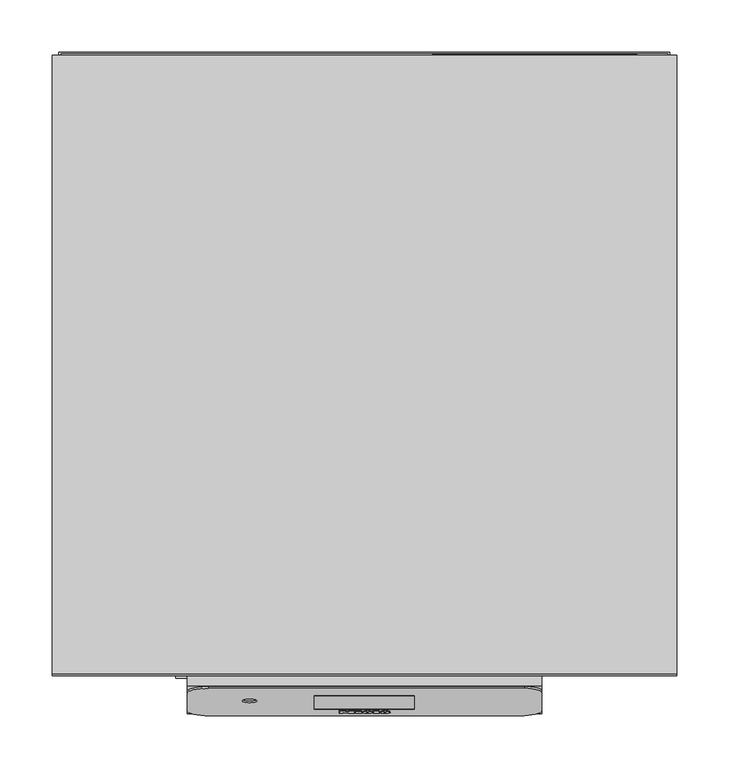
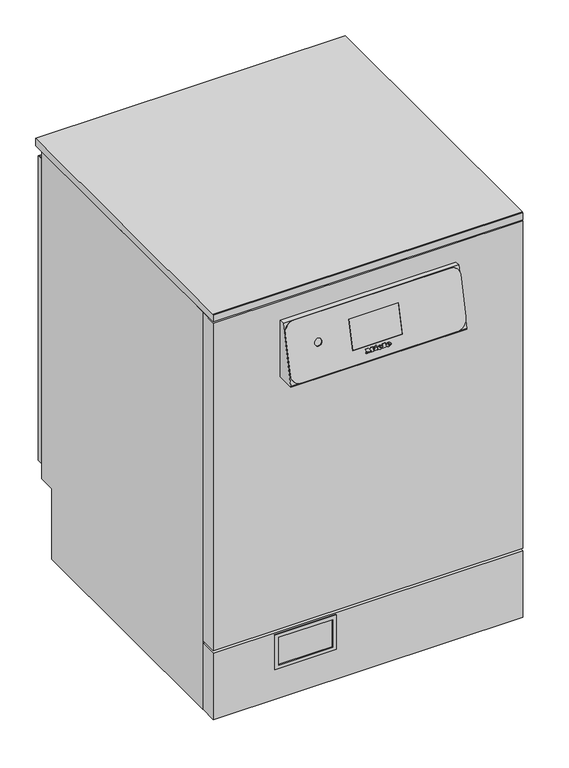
"""IFC4 building model written with IfcOpenShell, lengths in millimetres: proxy geometry, 12065720_NWE_PFD404_SST : 61040410_NWE_12065720_PFD404_SST."""

from ifc_helpers import new_model, si_unit, point, frame, frame_2d, origin, origin_with_axes, place, context, project, spatial, polyline, circle_curve, ellipse_curve, trimmed, segment, composite_curve, outline, extrude, faceted_brep, source, transform, mapped, element, save
from ifc_brep_helpers import plane_surface, cylinder_surface, revolved_surface, extruded_surface, advanced_brep


def specialty_equipment_543192e9(model_context):
    return source(origin(), model_context, "Body", "SolidModel", [
        advanced_brep(
        [(19.2098411, -35.3170778, 679.7116041), (19.2098411, -35.1353173, 680.4988951), (24.5618411, -35.1353173, 680.4988951), (15.2498411, -35.1353173, 680.4988951), (17.4498411, -35.743585, 677.8641985), (24.4258411, -35.3170778, 679.7116041), (22.0098411, -35.3170778, 679.7116041), (20.1058411, -35.5186339, 678.8385685), (19.2098411, -34.9049675, 681.4966501), (19.2098411, -34.7088101, 682.3463008), (20.5778411, -34.7088101, 682.3463008), (20.5778411, -34.9049675, 681.4966501), (19.2098411, -34.3427077, 679.4866531), (20.1058411, -34.5442639, 678.6136175), (22.0098411, -34.3427077, 679.4866531), (24.4258411, -34.3427077, 679.4866531), (17.4498411, -34.7692149, 677.6392474), (15.2498411, -34.1609473, 680.2739441), (24.5618411, -34.1609473, 680.2739441), (19.2098411, -34.1609473, 680.2739441), (19.2098411, -33.9305974, 681.271699), (20.5778411, -33.9305974, 681.271699), (20.5778411, -33.7344401, 682.1213497), (19.2098411, -33.7344401, 682.1213497)],
        [
            (0, 1),
            (1, 2),
            (2, 3, ellipse_curve(frame((19.9058411, -35.1353173, 680.4988951), z_axis=(0.0, -0.9743700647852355, 0.22495105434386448), x_axis=(-1.0, 0.0, 0.0)), 4.656, 3.848)),
            (3, 4, circle_curve(frame((18.3458847, -35.0741307, 680.7639238), z_axis=(0.0, -0.9743700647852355, 0.22495105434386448), x_axis=(0.0, -0.22495105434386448, -0.9743700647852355)), 3.1079688)),
            (4, 5, circle_curve(frame((19.8126347, -34.599034, 682.8217934), z_axis=(0.0, -0.9743700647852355, 0.22495105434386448), x_axis=(0.0, -0.22495105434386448, -0.9743700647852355)), 5.6098607)),
            (5, 6),
            (6, 7, circle_curve(frame((20.4968999, -35.1497142, 680.4365354), z_axis=(0.0, 0.9743700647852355, -0.22495105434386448), x_axis=(0.0, -0.22495105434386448, -0.9743700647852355)), 1.6859795)),
            (7, 0, circle_curve(frame((20.1058411, -35.3170778, 679.7116041), z_axis=(0.0, 0.9743700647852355, -0.22495105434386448), x_axis=(0.0, -0.22495105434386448, -0.9743700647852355)), 0.896)),
            (8, 9),
            (9, 10, circle_curve(frame((19.8938411, -34.7088101, 682.3463008), z_axis=(0.0, 0.9743700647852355, -0.22495105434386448), x_axis=(0.0, -0.22495105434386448, -0.9743700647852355)), 0.684)),
            (10, 11),
            (11, 8),
            (12, 13, circle_curve(frame((20.1058411, -34.3427077, 679.4866531), z_axis=(0.0, -0.9743700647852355, 0.22495105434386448), x_axis=(0.0, -0.22495105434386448, -0.9743700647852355)), 0.896)),
            (13, 14, circle_curve(frame((20.4968999, -34.1753441, 680.2115844), z_axis=(0.0, -0.9743700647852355, 0.22495105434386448), x_axis=(0.0, -0.22495105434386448, -0.9743700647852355)), 1.6859795)),
            (14, 15),
            (15, 16, circle_curve(frame((19.8126347, -33.624664, 682.5968423), z_axis=(0.0, 0.9743700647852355, -0.22495105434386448), x_axis=(0.0, -0.22495105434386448, -0.9743700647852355)), 5.6098607)),
            (16, 17, circle_curve(frame((18.3458847, -34.0997606, 680.5389727), z_axis=(0.0, 0.9743700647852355, -0.22495105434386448), x_axis=(0.0, -0.22495105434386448, -0.9743700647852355)), 3.1079688)),
            (17, 18, ellipse_curve(frame((19.9058411, -34.1609473, 680.2739441), z_axis=(0.0, 0.9743700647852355, -0.22495105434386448), x_axis=(-1.0, 0.0, 0.0)), 4.656, 3.848)),
            (18, 19),
            (19, 12),
            (20, 21),
            (21, 22),
            (22, 23, circle_curve(frame((19.8938411, -33.7344401, 682.1213497), z_axis=(0.0, -0.9743700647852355, 0.22495105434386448), x_axis=(0.0, -0.22495105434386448, -0.9743700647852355)), 0.684)),
            (23, 20),
            (0, 12),
            (19, 1),
            (18, 2),
            (5, 15),
            (14, 6),
            (17, 3),
            (13, 7),
            (16, 4),
            (8, 20),
            (23, 9),
            (22, 10),
            (21, 11),
        ],
        [
            plane_surface(frame((19.2098411, -35.1353173, 680.4988951), z_axis=(0.0, -0.9743700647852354, 0.22495105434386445), x_axis=(0.0, 0.22495105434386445, 0.9743700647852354))),
            plane_surface(frame((19.2098411, -34.1609473, 680.2739441), z_axis=(0.0, 0.9743700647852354, -0.22495105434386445), x_axis=(0.0, -0.22495105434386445, -0.9743700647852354))),
            plane_surface(frame((19.2098411, -35.3170778, 679.7116041), z_axis=(1.0, 0.0, 0.0), x_axis=(0.0, 0.9743700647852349, -0.22495105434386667))),
            plane_surface(frame((19.2098411, -35.1353173, 680.4988951), z_axis=(0.0, -0.22495105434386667, -0.9743700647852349), x_axis=(0.0, 0.9743700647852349, -0.22495105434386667))),
            plane_surface(frame((24.4258411, -35.3170778, 679.7116041), z_axis=(0.0, 0.22495105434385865, 0.9743700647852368), x_axis=(0.0, 0.9743700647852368, -0.22495105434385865))),
            extruded_surface(trimmed(ellipse_curve(frame((19.9058411, -33.1865772, 680.048993), z_axis=(0.0, -0.9743700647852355, 0.22495105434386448), x_axis=(-1.0, 0.0, 0.0)), 4.656, 3.848), [point((24.5618411, -33.1865772, 680.048993))], [point((15.2498411, -33.1865772, 680.048993))], True, "CARTESIAN"), (0.0, -0.9743700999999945, 0.2249510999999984), 1.0000000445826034),
            revolved_surface(polyline([(20.4968999, -34.55460696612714, 678.5688164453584), (20.4968999, -35.52897707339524, 678.7937675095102)]), (20.4968999, -34.1753441, 680.2115844), (0.0, 0.9743700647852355, -0.22495105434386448)),
            revolved_surface(polyline([(20.1058411, -34.544263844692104, 678.6136175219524), (20.1058411, -35.51863393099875, 678.8385685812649)]), (20.1058411, -34.3427077, 679.4866531), (0.0, 0.9743700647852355, -0.22495105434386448)),
            cylinder_surface(frame((18.3458847, -34.0997606, 680.5389727), z_axis=(0.0, -0.9743700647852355, 0.22495105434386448), x_axis=(0.0, -0.22495105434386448, -0.9743700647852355)), 3.1079688),
            cylinder_surface(frame((19.8126347, -33.624664, 682.5968423), z_axis=(0.0, -0.9743700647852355, 0.22495105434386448), x_axis=(0.0, -0.22495105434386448, -0.9743700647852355)), 5.6098607),
            plane_surface(frame((19.2098411, -34.9049675, 681.4966501), z_axis=(1.0, 0.0, 0.0), x_axis=(0.0, 0.9743700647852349, -0.22495105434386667))),
            revolved_surface(polyline([(19.8938411, -33.8883066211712, 681.4548805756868), (19.8938411, -34.8626766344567, 681.6798316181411)]), (19.8938411, -33.7344401, 682.1213497), (0.0, 0.9743700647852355, -0.22495105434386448)),
            plane_surface(frame((20.5778411, -34.7088101, 682.3463008), z_axis=(-1.0, 0.0, 0.0), x_axis=(0.0, 0.9743700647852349, -0.22495105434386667))),
            plane_surface(frame((20.5778411, -34.9049675, 681.4966501), z_axis=(0.0, 0.22495105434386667, 0.9743700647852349), x_axis=(0.0, 0.9743700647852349, -0.22495105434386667))),
        ],
        [
            (0, [[1, 2, 3, 4, 5, 6, 7, 8], [9, 10, 11, 12]]),
            (1, [[13, 14, 15, 16, 17, 18, 19, 20], [21, 22, 23, 24]]),
            (2, [[-1, 25, -20, 26]]),
            (3, [[-2, -26, -19, 27]]),
            (4, [[-6, 28, -15, 29]]),
            (5, [[-3, -27, -18, 30]]),
            (6, [[-7, -29, -14, 31]]),
            (7, [[-8, -31, -13, -25]]),
            (8, [[-4, -30, -17, 32]]),
            (9, [[-5, -32, -16, -28]]),
            (10, [[-9, 33, -24, 34]]),
            (11, [[-10, -34, -23, 35]]),
            (12, [[-11, -35, -22, 36]]),
            (13, [[-12, -36, -21, -33]]),
        ],
    ),
        advanced_brep(
        [(2.5138411, -35.3170778, 679.7116041), (2.5138411, -35.1353173, 680.4988951), (7.8658411, -35.1353173, 680.4988951), (-1.4461589, -35.1353173, 680.4988951), (0.7538411, -35.743585, 677.8641985), (7.7298411, -35.3170778, 679.7116041), (5.3138411, -35.3170778, 679.7116041), (3.4098411, -35.5186339, 678.8385685), (2.5138411, -34.9049675, 681.4966501), (2.5138411, -34.7088101, 682.3463008), (3.8818411, -34.7088101, 682.3463008), (3.8818411, -34.9049675, 681.4966501), (2.5138411, -34.3427077, 679.4866531), (3.4098411, -34.5442639, 678.6136175), (5.3138411, -34.3427077, 679.4866531), (7.7298411, -34.3427077, 679.4866531), (0.7538411, -34.7692149, 677.6392474), (-1.4461589, -34.1609473, 680.2739441), (7.8658411, -34.1609473, 680.2739441), (2.5138411, -34.1609473, 680.2739441), (2.5138411, -33.9305974, 681.271699), (3.8818411, -33.9305974, 681.271699), (3.8818411, -33.7344401, 682.1213497), (2.5138411, -33.7344401, 682.1213497)],
        [
            (0, 1),
            (1, 2),
            (2, 3, ellipse_curve(frame((3.2098411, -35.1353173, 680.4988951), z_axis=(0.0, -0.9743700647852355, 0.22495105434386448), x_axis=(-1.0, 0.0, 0.0)), 4.656, 3.848)),
            (3, 4, circle_curve(frame((1.6498847, -35.0741307, 680.7639238), z_axis=(0.0, -0.9743700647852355, 0.22495105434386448), x_axis=(0.0, -0.22495105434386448, -0.9743700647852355)), 3.1079688)),
            (4, 5, circle_curve(frame((3.1166347, -34.599034, 682.8217934), z_axis=(0.0, -0.9743700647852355, 0.22495105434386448), x_axis=(0.0, -0.22495105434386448, -0.9743700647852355)), 5.6098607)),
            (5, 6),
            (6, 7, circle_curve(frame((3.8008999, -35.1497142, 680.4365354), z_axis=(0.0, 0.9743700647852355, -0.22495105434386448), x_axis=(0.0, -0.22495105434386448, -0.9743700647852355)), 1.6859795)),
            (7, 0, circle_curve(frame((3.4098411, -35.3170778, 679.7116041), z_axis=(0.0, 0.9743700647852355, -0.22495105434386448), x_axis=(0.0, -0.22495105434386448, -0.9743700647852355)), 0.896)),
            (8, 9),
            (9, 10, circle_curve(frame((3.1978411, -34.7088101, 682.3463008), z_axis=(0.0, 0.9743700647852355, -0.22495105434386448), x_axis=(0.0, -0.22495105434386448, -0.9743700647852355)), 0.684)),
            (10, 11),
            (11, 8),
            (12, 13, circle_curve(frame((3.4098411, -34.3427077, 679.4866531), z_axis=(0.0, -0.9743700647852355, 0.22495105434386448), x_axis=(0.0, -0.22495105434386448, -0.9743700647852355)), 0.896)),
            (13, 14, circle_curve(frame((3.8008999, -34.1753441, 680.2115844), z_axis=(0.0, -0.9743700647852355, 0.22495105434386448), x_axis=(0.0, -0.22495105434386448, -0.9743700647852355)), 1.6859795)),
            (14, 15),
            (15, 16, circle_curve(frame((3.1166347, -33.624664, 682.5968423), z_axis=(0.0, 0.9743700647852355, -0.22495105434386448), x_axis=(0.0, -0.22495105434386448, -0.9743700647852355)), 5.6098607)),
            (16, 17, circle_curve(frame((1.6498847, -34.0997606, 680.5389727), z_axis=(0.0, 0.9743700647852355, -0.22495105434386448), x_axis=(0.0, -0.22495105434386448, -0.9743700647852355)), 3.1079688)),
            (17, 18, ellipse_curve(frame((3.2098411, -34.1609473, 680.2739441), z_axis=(0.0, 0.9743700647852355, -0.22495105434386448), x_axis=(-1.0, 0.0, 0.0)), 4.656, 3.848)),
            (18, 19),
            (19, 12),
            (20, 21),
            (21, 22),
            (22, 23, circle_curve(frame((3.1978411, -33.7344401, 682.1213497), z_axis=(0.0, -0.9743700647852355, 0.22495105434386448), x_axis=(0.0, -0.22495105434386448, -0.9743700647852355)), 0.684)),
            (23, 20),
            (0, 12),
            (19, 1),
            (18, 2),
            (5, 15),
            (14, 6),
            (17, 3),
            (13, 7),
            (16, 4),
            (8, 20),
            (23, 9),
            (22, 10),
            (21, 11),
        ],
        [
            plane_surface(frame((2.5138411, -35.1353173, 680.4988951), z_axis=(0.0, -0.9743700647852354, 0.22495105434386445), x_axis=(0.0, 0.22495105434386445, 0.9743700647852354))),
            plane_surface(frame((2.5138411, -34.1609473, 680.2739441), z_axis=(0.0, 0.9743700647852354, -0.22495105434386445), x_axis=(0.0, -0.22495105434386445, -0.9743700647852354))),
            plane_surface(frame((2.5138411, -35.3170778, 679.7116041), z_axis=(1.0000000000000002, 0.0, 0.0), x_axis=(0.0, 0.9743700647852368, -0.22495105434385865))),
            plane_surface(frame((2.5138411, -35.1353173, 680.4988951), z_axis=(0.0, -0.22495105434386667, -0.9743700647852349), x_axis=(0.0, 0.9743700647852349, -0.22495105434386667))),
            plane_surface(frame((7.7298411, -35.3170778, 679.7116041), z_axis=(0.0, 0.22495105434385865, 0.9743700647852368), x_axis=(0.0, 0.9743700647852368, -0.22495105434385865))),
            extruded_surface(trimmed(ellipse_curve(frame((3.2098411, -33.1865772, 680.048993), z_axis=(0.0, -0.9743700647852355, 0.22495105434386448), x_axis=(-1.0, 0.0, 0.0)), 4.656, 3.848), [point((7.8658411, -33.1865772, 680.048993))], [point((-1.4461589, -33.1865772, 680.048993))], True, "CARTESIAN"), (0.0, -0.9743700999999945, 0.2249510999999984), 1.0000000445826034),
            revolved_surface(polyline([(3.8008999, -34.55460696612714, 678.5688164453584), (3.8008999, -35.52897707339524, 678.7937675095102)]), (3.8008999, -34.1753441, 680.2115844), (0.0, 0.9743700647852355, -0.22495105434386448)),
            revolved_surface(polyline([(3.4098411, -34.544263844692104, 678.6136175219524), (3.4098411, -35.51863393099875, 678.8385685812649)]), (3.4098411, -34.3427077, 679.4866531), (0.0, 0.9743700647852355, -0.22495105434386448)),
            cylinder_surface(frame((1.6498847, -34.0997606, 680.5389727), z_axis=(0.0, -0.9743700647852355, 0.22495105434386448), x_axis=(0.0, -0.22495105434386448, -0.9743700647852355)), 3.1079688),
            cylinder_surface(frame((3.1166347, -33.624664, 682.5968423), z_axis=(0.0, -0.9743700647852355, 0.22495105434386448), x_axis=(0.0, -0.22495105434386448, -0.9743700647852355)), 5.6098607),
            plane_surface(frame((2.5138411, -34.9049675, 681.4966501), z_axis=(1.0, 0.0, 0.0), x_axis=(0.0, 0.9743700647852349, -0.22495105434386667))),
            revolved_surface(polyline([(3.1978411, -33.8883066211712, 681.4548805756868), (3.1978411, -34.8626766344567, 681.6798316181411)]), (3.1978411, -33.7344401, 682.1213497), (0.0, 0.9743700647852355, -0.22495105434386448)),
            plane_surface(frame((3.8818411, -34.7088101, 682.3463008), z_axis=(-1.0, 0.0, 0.0), x_axis=(0.0, 0.9743700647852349, -0.22495105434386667))),
            plane_surface(frame((3.8818411, -34.9049675, 681.4966501), z_axis=(0.0, 0.22495105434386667, 0.9743700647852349), x_axis=(0.0, 0.9743700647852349, -0.22495105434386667))),
        ],
        [
            (0, [[1, 2, 3, 4, 5, 6, 7, 8], [9, 10, 11, 12]]),
            (1, [[13, 14, 15, 16, 17, 18, 19, 20], [21, 22, 23, 24]]),
            (2, [[-1, 25, -20, 26]]),
            (3, [[-2, -26, -19, 27]]),
            (4, [[-6, 28, -15, 29]]),
            (5, [[-3, -27, -18, 30]]),
            (6, [[-7, -29, -14, 31]]),
            (7, [[-8, -31, -13, -25]]),
            (8, [[-4, -30, -17, 32]]),
            (9, [[-5, -32, -16, -28]]),
            (10, [[-9, 33, -24, 34]]),
            (11, [[-10, -34, -23, 35]]),
            (12, [[-11, -35, -22, 36]]),
            (13, [[-12, -36, -21, -33]]),
        ],
    ),
        extrude(outline(polyline([(0.0, 0.0), (-0.0109087, -2.9993294), (-1.4390415, -2.9920868), (-1.4315307, 0.0), (0.0, 0.0)])), frame((-6.2301589, -33.0757834, 684.9743053), z_axis=(0.0, -0.9743700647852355, 0.2249510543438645), x_axis=(-0.42472021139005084, 0.20365373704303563, 0.8821212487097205)), (0.0, 0.0, 1.0), 1.0),
        extrude(outline(polyline([(-0.4933908, 2.4141097), (-2.7800844, -2.4601583), (-7.0459742, -0.4588767), (-7.4401146, -1.2990179), (-8.6568709, -0.728194), (-5.9760369, 4.9862153), (-4.7592806, 4.4153913), (-5.1636142, 3.5535222), (-2.1941493, 2.16044), (-1.7898157, 3.022309), (-0.4933908, 2.4141097)])), frame((-6.2301589, -33.0757834, 684.9743053), z_axis=(0.0, -0.9743700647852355, 0.2249510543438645), x_axis=(-0.42472021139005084, 0.20365373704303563, 0.8821212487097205)), (0.0, 0.0, 1.0), 1.0),
        extrude(outline(polyline([(0.0, 0.0), (0.0, -1.3039999), (-5.504, -1.3039999), (-5.504, 5.352), (-6.488, 5.352), (-6.488, 6.696), (0.0, 6.696), (0.0, 5.352), (-0.96, 5.352), (-0.96, 0.0), (0.0, 0.0)])), frame((8.3138411, -33.2629427, 684.1636294), z_axis=(0.0, -0.9743700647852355, 0.22495105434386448), x_axis=(-1.0, 0.0, 0.0)), (0.0, 0.0, 1.0), 1.0),
        extrude(outline(polyline([(0.0, 0.0), (0.0, -1.3039999), (-5.576, -1.3039999), (-7.92, 1.6960001), (-10.256, -1.3039999), (-15.128, -1.3039999), (-15.128, 0.0), (-14.112, 0.0), (-14.112, 5.352), (-15.128, 5.352), (-15.128, 6.696), (-8.744, 6.696), (-8.744, 5.352), (-9.728, 5.352), (-9.728, 1.8807777), (-6.136, 6.696), (-2.56, 1.9488752), (-2.56, 5.352), (-3.52, 5.352), (-3.52, 6.696), (0.0, 6.696), (0.0, 5.352), (-0.968, 5.352), (-0.968, 0.0), (0.0, 0.0)])), frame((-24.1501589, -33.2629427, 684.1636294), z_axis=(0.0, -0.9743700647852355, 0.22495105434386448), x_axis=(-1.0, 0.0, 0.0)), (0.0, 0.0, 1.0), 1.0),
        extrude(outline(polyline([(1.7745866, 832.3), (594.2, 832.3), (594.2, 817.0), (0.2, 817.0), (0.2, 830.7254134), (1.7745866, 832.3)])), frame((-299.0, 0.0, 0.0), z_axis=(1.0, 0.0, 0.0), x_axis=(0.0, 1.0, 0.0)), (0.0, 0.0, 1.0), 598.0),
        extrude(outline(polyline([(-0.1038681, 775.5857792), (-0.1038681, 660.0), (-36.1981904, 660.0), (-36.1981904, 662.5588517), (-10.1038681, 775.5857792), (-0.1038681, 775.5857792)])), frame((-169.8831565, 0.0, 0.0), z_axis=(1.0, 0.0, 0.0), x_axis=(0.0, 1.0, 0.0)), (0.0, 0.0, 1.0), 339.766313),
        extrude(outline(polyline([(137.0, -180.8556958), (66.1019991, -180.8556958), (66.1019991, -62.1493684), (137.0, -62.1493684), (137.0, -180.8556958)]), holes=[polyline([(129.5988213, -69.1491757), (73.0575068, -69.1491757), (73.0575068, -173.1990884), (129.5988213, -173.1990884), (129.5988213, -69.1491757)])]), frame((0.0, -2.0, 0.0), z_axis=(0.0, 1.0, 0.0), x_axis=(0.0, 0.0, 1.0)), (0.0, 0.0, 1.0), 2.0),
        extrude(outline(polyline([(299.0, 34.0), (299.0, 0.0), (-299.0, 0.0), (-299.0, 34.0), (299.0, 34.0)])), frame((0.0, 0.0, 4.5), z_axis=(0.0, 0.0, 1.0), x_axis=(1.0, 0.0, 0.0)), (0.0, 0.0, 1.0), 135.5),
        extrude(outline(polyline([(299.0, 34.0), (299.0, 0.0), (-299.0, 0.0), (-299.0, 34.0), (299.0, 34.0)])), frame((0.0, 0.0, 145.0), z_axis=(0.0, 0.0, 1.0), x_axis=(1.0, 0.0, 0.0)), (0.0, 0.0, 1.0), 670.0),
        advanced_brep(
        [(153.3281651, -12.0526082, 776.0356813), (-148.8831565, -12.0526082, 776.0356813), (-169.8831565, -16.7765804, 755.57391), (-169.8831565, -33.4229584, 683.4705252), (-148.8831565, -38.1469305, 663.0087538), (148.8831565, -38.1469305, 663.0087538), (169.8831565, -33.4229584, 683.4705252), (169.8831565, -15.776671, 759.9049933), (-102.8831565, -24.0088923, 724.2473253), (-116.8831565, -24.0088923, 724.2473253), (48.0, -18.9868916, 746.0), (48.0, -31.9155103, 690.0), (-48.0, -31.9155103, 690.0), (-48.0, -18.9868916, 746.0), (153.3281651, -10.1038681, 775.5857792), (169.8831565, -13.8279308, 759.4550912), (169.8831565, -31.4742182, 683.0206231), (148.8831565, -36.1981904, 662.5588517), (-148.8831565, -36.1981904, 662.5588517), (-169.8831565, -31.4742182, 683.0206231), (-169.8831565, -14.8278402, 755.1240079), (-148.8831565, -10.1038681, 775.5857792), (48.0, -29.8629021, 690.0), (48.0, -16.9342834, 746.0), (-48.0, -16.9342834, 746.0), (-48.0, -29.8629021, 690.0), (-116.8831565, -22.4281396, 723.8823798), (-102.8831565, -22.4281396, 723.8823798)],
        [
            (0, 1),
            (1, 2, circle_curve(frame((-148.8831565, -16.7765804, 755.57391), z_axis=(0.0, -0.9743700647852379, 0.22495105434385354), x_axis=(1.0, 0.0, 0.0)), 21.0)),
            (2, 3),
            (3, 4, circle_curve(frame((-148.8831565, -33.4229584, 683.4705252), z_axis=(0.0, -0.9743700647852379, 0.22495105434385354), x_axis=(1.0, 0.0, 0.0)), 21.0)),
            (4, 5),
            (5, 6, circle_curve(frame((148.8831565, -33.4229584, 683.4705252), z_axis=(0.0, -0.9743700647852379, 0.22495105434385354), x_axis=(1.0, 0.0, 0.0)), 21.0)),
            (6, 7),
            (7, 0, circle_curve(frame((153.3281651, -15.776671, 759.9049933), z_axis=(0.0, -0.9743700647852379, 0.22495105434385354), x_axis=(1.0, 0.0, 0.0)), 16.5549913)),
            (8, 9, circle_curve(frame((-109.8831565, -24.0088923, 724.2473253), z_axis=(0.0, 0.9743700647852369, -0.22495105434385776), x_axis=(1.0, 0.0, 0.0)), 7.0)),
            (9, 8, circle_curve(frame((-109.8831565, -24.0088923, 724.2473253), z_axis=(0.0, 0.9743700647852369, -0.22495105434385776), x_axis=(1.0, 0.0, 0.0)), 7.0)),
            (10, 11),
            (11, 12),
            (12, 13),
            (13, 10),
            (14, 15, circle_curve(frame((153.3281651, -13.8279308, 759.4550912), z_axis=(0.0, 0.9743700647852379, -0.22495105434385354), x_axis=(1.0, 0.0, 0.0)), 16.5549913)),
            (15, 16),
            (16, 17, circle_curve(frame((148.8831565, -31.4742182, 683.0206231), z_axis=(0.0, 0.9743700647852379, -0.22495105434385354), x_axis=(1.0, 0.0, 0.0)), 21.0)),
            (17, 18),
            (18, 19, circle_curve(frame((-148.8831565, -31.4742182, 683.0206231), z_axis=(0.0, 0.9743700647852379, -0.22495105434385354), x_axis=(1.0, 0.0, 0.0)), 21.0)),
            (19, 20),
            (20, 21, circle_curve(frame((-148.8831565, -14.8278402, 755.1240079), z_axis=(0.0, 0.9743700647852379, -0.22495105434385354), x_axis=(1.0, 0.0, 0.0)), 21.0)),
            (21, 14),
            (22, 23),
            (23, 24),
            (24, 25),
            (25, 22),
            (0, 14),
            (21, 1),
            (20, 2),
            (19, 3),
            (18, 4),
            (17, 5),
            (16, 6),
            (15, 7),
            (26, 27, circle_curve(frame((-109.8831565, -22.4281396, 723.8823798), z_axis=(0.0, -0.9743700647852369, 0.22495105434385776), x_axis=(1.0, 0.0, 0.0)), 7.0)),
            (27, 26, circle_curve(frame((-109.8831565, -22.4281396, 723.8823798), z_axis=(0.0, -0.9743700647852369, 0.22495105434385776), x_axis=(1.0, 0.0, 0.0)), 7.0)),
            (26, 9),
            (8, 27),
            (12, 25),
            (24, 13),
            (10, 23),
            (22, 11),
        ],
        [
            plane_surface(frame((-166.8819453, -12.0526082, 776.0356813), z_axis=(0.0, -0.9743700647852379, 0.22495105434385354), x_axis=(-1.0, 0.0, 0.0))),
            plane_surface(frame((-166.8819453, -10.1038681, 775.5857792), z_axis=(0.0, 0.9743700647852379, -0.22495105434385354), x_axis=(1.0, 0.0, 0.0))),
            plane_surface(frame((153.3281651, -12.0526082, 776.0356813), z_axis=(0.0, 0.22495105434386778, 0.9743700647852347), x_axis=(0.0, 0.9743700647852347, -0.22495105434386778))),
            cylinder_surface(frame((-148.8831565, -14.8278402, 755.1240079), z_axis=(0.0, -0.9743700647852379, 0.22495105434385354), x_axis=(1.0, 0.0, 0.0)), 21.0),
            plane_surface(frame((-169.8831565, -16.7765804, 755.57391), z_axis=(-1.0, 0.0, 0.0), x_axis=(0.0, 0.9743700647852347, -0.22495105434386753))),
            cylinder_surface(frame((-148.8831565, -31.4742182, 683.0206231), z_axis=(0.0, -0.9743700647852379, 0.22495105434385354), x_axis=(1.0, 0.0, 0.0)), 21.0),
            plane_surface(frame((-148.8831565, -38.1469305, 663.0087538), z_axis=(0.0, -0.22495105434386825, -0.9743700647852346), x_axis=(0.0, 0.9743700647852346, -0.22495105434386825))),
            cylinder_surface(frame((148.8831565, -31.4742182, 683.0206231), z_axis=(0.0, -0.9743700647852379, 0.22495105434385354), x_axis=(1.0, 0.0, 0.0)), 21.0),
            plane_surface(frame((169.8831565, -33.4229584, 683.4705252), z_axis=(1.0000000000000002, 0.0, 0.0), x_axis=(0.0, 0.9743700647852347, -0.22495105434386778))),
            cylinder_surface(frame((153.3281651, -13.8279308, 759.4550912), z_axis=(0.0, -0.9743700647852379, 0.22495105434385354), x_axis=(1.0, 0.0, 0.0)), 16.5549913),
            plane_surface(frame((-102.8831565, -22.4281396, 723.8823798), z_axis=(0.0, -0.9743700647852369, 0.2249510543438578), x_axis=(0.0, -0.2249510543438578, -0.9743700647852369))),
            revolved_surface(polyline([(-102.8831565, -24.008892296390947, 724.2473253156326), (-102.8831565, -22.4281396, 723.8823798)]), (-109.8831565, -22.4281396, 723.8823798), (0.0, -0.9743700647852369, 0.22495105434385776)),
            plane_surface(frame((-48.0, -31.9155103, 690.0), z_axis=(1.0, 0.0, 0.0), x_axis=(0.0, -1.0, 0.0))),
            plane_surface(frame((48.0, -31.9155103, 690.0), z_axis=(-1.0, 0.0, 0.0), x_axis=(0.0, 1.0, 0.0))),
            plane_surface(frame((48.0, -31.9155103, 690.0), z_axis=(0.0, 0.0, 1.0), x_axis=(-1.0, 0.0, 0.0))),
            plane_surface(frame((48.0, -16.9342834, 746.0), z_axis=(0.0, 0.0, -1.0), x_axis=(-1.0, 0.0, 0.0))),
        ],
        [
            (0, [[1, 2, 3, 4, 5, 6, 7, 8], [9, 10], [11, 12, 13, 14]]),
            (1, [[15, 16, 17, 18, 19, 20, 21, 22], [23, 24, 25, 26]]),
            (2, [[-1, 27, -22, 28]]),
            (3, [[-2, -28, -21, 29]]),
            (4, [[-3, -29, -20, 30]]),
            (5, [[-4, -30, -19, 31]]),
            (6, [[-5, -31, -18, 32]]),
            (7, [[-6, -32, -17, 33]]),
            (8, [[-7, -33, -16, 34]]),
            (9, [[-8, -34, -15, -27]]),
            (10, [[35, 36]]),
            (11, [[-35, 37, -9, 38]]),
            (11, [[-36, -38, -10, -37]]),
            (12, [[39, -25, 40, -13]]),
            (13, [[41, -23, 42, -11]]),
            (14, [[-42, -26, -39, -12]]),
            (15, [[-41, -14, -40, -24]]),
        ],
    ),
        extrude(outline(polyline([(-29.8629021, 690.0), (-31.9155103, 690.0), (-18.9868916, 746.0), (-16.9342834, 746.0), (-29.8629021, 690.0)])), frame((-48.0, 0.0, 0.0), z_axis=(1.0, 0.0, 0.0), x_axis=(0.0, 1.0, 0.0)), (0.0, 0.0, 1.0), 96.0),
        extrude(outline(polyline([(35.0, 817.0), (575.0, 817.0), (575.0, 148.0), (541.0, 148.0), (541.0, 4.2000122), (35.0, 4.2000122), (35.0, 817.0)])), frame((-299.0, 0.0, 0.0), z_axis=(1.0, 0.0, 0.0), x_axis=(0.0, 1.0, 0.0)), (0.0, 0.0, 1.0), 598.0),
        extrude(outline(polyline([(-172.0947306, 541.0), (-252.9150967, 541.0), (-252.9150967, 546.8796322), (-172.0947306, 546.8796322), (-172.0947306, 541.0)])), frame((0.0, 0.0, 83.2113443), z_axis=(0.0, 0.0, 1.0), x_axis=(1.0, 0.0, 0.0)), (0.0, 0.0, 1.0), 9.5402229),
        extrude(outline(polyline([(-172.0947306, 541.0), (-252.9150967, 541.0), (-252.9150967, 546.8796322), (-172.0947306, 546.8796322), (-172.0947306, 541.0)])), frame((0.0, 0.0, 49.1113767), z_axis=(0.0, 0.0, 1.0), x_axis=(1.0, 0.0, 0.0)), (0.0, 0.0, 1.0), 11.5700235),
        extrude(outline(polyline([(-172.0947306, 541.0), (-252.9150967, 541.0), (-252.9150967, 546.8796322), (-172.0947306, 546.8796322), (-172.0947306, 541.0)])), frame((0.0, 0.0, 67.2113431), z_axis=(0.0, 0.0, 1.0), x_axis=(1.0, 0.0, 0.0)), (0.0, 0.0, 1.0), 9.5826234),
        faceted_brep([(292.4999939, 597.3069992, 792.0057337), (292.4999939, 575.0, 792.0057337), (292.4999939, 575.0, 170.291519), (292.4999939, 597.3069992, 170.291519), (-292.5000061, 597.3069992, 792.0057337), (-292.5000061, 597.3069992, 170.291519), (-200.000102, 597.3069992, 319.6113699), (-200.000102, 597.3069992, 244.365213), (-125.000102, 597.3069992, 244.365213), (-125.000102, 597.3069992, 319.6113699), (-200.000102, 596.3069992, 244.365213), (-200.000102, 596.3069992, 319.6113699), (-125.000102, 596.3069992, 244.365213), (-125.000102, 596.3069992, 319.6113699), (-292.5000061, 575.0, 792.0057337), (-291.0000061, 575.0, 792.0057337), (-291.0000061, 596.3069992, 792.0057337), (290.9999949, 596.3069992, 792.0057337), (290.9999949, 575.0, 792.0057337), (290.9999949, 575.0, 170.291519), (290.9999949, 596.3069992, 170.291519), (-291.0000061, 596.3069992, 170.291519), (-291.0000061, 575.0, 170.291519), (-292.5000061, 575.0, 170.291519)], [[[0, 1, 2, 3]], [[4, 0, 3, 5], [6, 7, 8, 9]], [[10, 7, 6, 11]], [[7, 10, 12, 8]], [[8, 12, 13, 9]], [[11, 6, 9, 13]], [[0, 4, 14, 15, 16, 17, 18, 1]], [[3, 2, 19, 20, 21, 22, 23, 5]], [[14, 4, 5, 23]], [[15, 14, 23, 22]], [[16, 15, 22, 21]], [[17, 16, 21, 20], [10, 11, 13, 12]], [[18, 17, 20, 19]], [[1, 18, 19, 2]]]),
        extrude(outline(polyline([(48.0999756, 96.1730873), (58.1456066, 98.9125818), (58.1456066, 97.6176372), (51.5433511, 96.028387), (49.5052848, 95.5378777), (51.3079066, 95.0130327), (58.1456066, 93.0215648), (58.1456066, 91.1551768), (53.1890099, 89.7081743), (49.5052848, 88.6315064), (51.4844899, 88.1557123), (58.1456066, 86.5517468), (58.1456066, 85.2568022), (48.0999756, 87.9987493), (48.0999756, 89.3402923), (55.850023, 91.7486931), (56.931596, 92.084692), (55.6292938, 92.4623842), (48.0999756, 94.6574134), (48.0999756, 96.1730873)])), frame((0.0, 571.0, 0.0), z_axis=(0.0, 1.0, 0.0), x_axis=(0.0, 0.0, 1.0)), (0.0, 0.0, 1.0), 1.0),
        extrude(outline(polyline([(48.0999756, 82.2033816), (58.1456066, 84.9428762), (58.1456066, 83.6479316), (51.5433511, 82.0586814), (49.5052848, 81.568172), (51.3079066, 81.0433271), (58.1456066, 79.0518592), (58.1456066, 77.1854712), (53.1890099, 75.7384687), (49.5052848, 74.6618007), (51.4844899, 74.1860067), (58.1456066, 72.5820412), (58.1456066, 71.2870966), (48.0999756, 74.0290437), (48.0999756, 75.3705867), (55.850023, 77.7789875), (56.931596, 78.1149864), (55.6292938, 78.4926786), (48.0999756, 80.6877078), (48.0999756, 82.2033816)])), frame((0.0, 571.0, 0.0), z_axis=(0.0, 1.0, 0.0), x_axis=(0.0, 0.0, 1.0)), (0.0, 0.0, 1.0), 1.0),
        extrude(outline(polyline([(56.599963, 201.5578418), (66.645594, 204.2973364), (66.645594, 203.0023917), (60.0433385, 201.4131415), (58.0052722, 200.9226322), (59.807894, 200.3977872), (66.645594, 198.4063193), (66.645594, 196.5399313), (61.6889973, 195.0929288), (58.0052722, 194.0162609), (59.9844773, 193.5404668), (66.645594, 191.9365013), (66.645594, 190.6415567), (56.599963, 193.3835038), (56.599963, 194.7250468), (64.3500104, 197.1334476), (65.4315834, 197.4694465), (64.1292812, 197.8471387), (56.599963, 200.0421679), (56.599963, 201.5578418)])), frame((0.0, 571.0, 0.0), z_axis=(0.0, 1.0, 0.0), x_axis=(0.0, 0.0, 1.0)), (0.0, 0.0, 1.0), 1.0),
        extrude(outline(polyline([(56.599963, 212.6163745), (66.645594, 212.6163745), (66.645594, 211.3606707), (61.728238, 211.3606707), (66.645594, 206.2103227), (66.645594, 204.4542993), (62.5155055, 208.7781391), (56.599963, 204.2973364), (56.599963, 205.8326305), (61.6669243, 209.6684135), (60.0531487, 211.3606707), (56.599963, 211.3606707), (56.599963, 212.6163745)])), frame((0.0, 571.0, 0.0), z_axis=(0.0, 1.0, 0.0), x_axis=(0.0, 0.0, 1.0)), (0.0, 0.0, 1.0), 1.0),
        extrude(outline(composite_curve([segment(trimmed(circle_curve(frame_2d((61.599963, 202.0998546)), 8.0), [point((61.599963, 194.0998546))], [point((61.599963, 210.0998546))], False, "CARTESIAN"), True, "CONTINUOUS"), segment(trimmed(circle_curve(frame_2d((61.599963, 202.0998546)), 8.0), [point((61.599963, 210.0998546))], [point((61.599963, 194.0998546))], False, "CARTESIAN"), True, "CONTINUOUS")], self_intersect=False)), frame((0.0, 541.0, 0.0), z_axis=(0.0, 1.0, 0.0), x_axis=(0.0, 0.0, 1.0)), (0.0, 0.0, 1.0), 30.0),
        extrude(outline(polyline([(61.1702758, 140.618963), (71.2159068, 140.618963), (71.2159068, 133.3986657), (69.960203, 133.3986657), (69.960203, 139.3632591), (66.9779062, 139.3632591), (66.9779062, 133.7125916), (65.7222024, 133.7125916), (65.7222024, 139.3632591), (62.4259797, 139.3632591), (62.4259797, 133.2417027), (61.1702758, 133.2417027), (61.1702758, 140.618963)])), frame((0.0, 571.0, 0.0), z_axis=(0.0, 1.0, 0.0), x_axis=(0.0, 0.0, 1.0)), (0.0, 0.0, 1.0), 1.0),
        extrude(outline(polyline([(61.1702758, 131.3581469), (71.2159068, 131.3581469), (71.2159068, 130.102443), (62.4259797, 130.102443), (62.4259797, 125.0796275), (61.1702758, 125.0796275), (61.1702758, 131.3581469)])), frame((0.0, 571.0, 0.0), z_axis=(0.0, 1.0, 0.0), x_axis=(0.0, 0.0, 1.0)), (0.0, 0.0, 1.0), 1.0),
        extrude(outline(polyline([(118.1398187, 18.2077062), (128.1854497, 18.2077062), (128.1854497, 14.7422578), (128.0407495, 12.9494462), (127.3221533, 11.4730132), (125.6053707, 10.283528), (123.2165903, 9.888668), (121.1895605, 10.1559956), (119.7266164, 10.8427087), (118.8154953, 11.7599611), (118.311497, 12.9604827), (118.1398187, 14.5754846), (118.1398187, 18.2077062)]), holes=[polyline([(119.3955226, 16.9520023), (119.3955226, 14.7299951), (119.5770111, 13.1137669), (120.0895933, 12.1817991), (121.3367133, 11.4178309), (123.2362106, 11.1443719), (125.6151809, 11.6802533), (126.728637, 12.9837819), (126.9297459, 14.7643307), (126.9297459, 16.9520023), (119.3955226, 16.9520023)])]), frame((0.0, 571.0, 0.0), z_axis=(0.0, 1.0, 0.0), x_axis=(0.0, 0.0, 1.0)), (0.0, 0.0, 1.0), 1.0),
        extrude(outline(polyline([(121.5930044, 8.6329642), (121.5930044, 7.3772603), (120.3360742, 6.9725901), (119.5414491, 5.9842138), (119.2385596, 4.4783502), (119.4678727, 3.1662377), (120.0981772, 2.3188828), (120.940627, 2.0405188), (121.7242156, 2.2489853), (122.2944327, 3.1024715), (122.7739056, 4.930845), (123.3931736, 6.8990137), (124.3275939, 7.9670977), (125.5759401, 8.3190382), (126.9971909, 7.8837112), (128.0002825, 6.6120657), (128.3424127, 4.7505828), (127.9843409, 2.7640201), (126.9321984, 1.4396449), (125.360116, 0.9417779), (125.360116, 2.1974818), (126.6501555, 2.9087203), (127.0867088, 4.7015319), (126.6550606, 6.4992486), (125.6127283, 7.0633343), (124.7420743, 6.6635692), (124.0406459, 4.6132402), (123.4103414, 2.391233), (122.3925346, 1.1759961), (120.9725101, 0.7848149), (119.4703253, 1.2348572), (118.3740369, 2.5298019), (117.9828557, 4.4292992), (118.4046938, 6.6721531), (119.6751129, 8.0909513), (121.5930044, 8.6329642)])), frame((0.0, 571.0, 0.0), z_axis=(0.0, 1.0, 0.0), x_axis=(0.0, 0.0, 1.0)), (0.0, 0.0, 1.0), 1.0),
        extrude(outline(composite_curve([segment(trimmed(circle_curve(frame_2d((126.8499756, 10.1811127)), 2.9851521), [point((126.8499756, 7.1959606))], [point((126.8499756, 13.1662647))], False, "CARTESIAN"), True, "CONTINUOUS"), segment(trimmed(circle_curve(frame_2d((126.8499756, 10.1811127)), 2.9851521), [point((126.8499756, 13.1662647))], [point((126.8499756, 7.1959606))], False, "CARTESIAN"), True, "CONTINUOUS")], self_intersect=False)), frame((0.0, 541.0, 0.0), z_axis=(0.0, 1.0, 0.0), x_axis=(0.0, 0.0, 1.0)), (0.0, 0.0, 1.0), 30.0),
        extrude(outline(composite_curve([segment(trimmed(circle_curve(frame_2d((117.0999756, 10.1811127)), 3.0), [point((117.0999756, 7.1811127))], [point((117.0999756, 13.1811127))], False, "CARTESIAN"), True, "CONTINUOUS"), segment(trimmed(circle_curve(frame_2d((117.0999756, 10.1811127)), 3.0), [point((117.0999756, 13.1811127))], [point((117.0999756, 7.1811127))], False, "CARTESIAN"), True, "CONTINUOUS")], self_intersect=False)), frame((0.0, 541.0, 0.0), z_axis=(0.0, 1.0, 0.0), x_axis=(0.0, 0.0, 1.0)), (0.0, 0.0, 1.0), 30.0),
        extrude(outline(composite_curve([segment(trimmed(circle_curve(frame_2d((107.3499443, 10.1811127)), 3.0), [point((107.3499443, 7.1811127))], [point((107.3499443, 13.1811127))], False, "CARTESIAN"), True, "CONTINUOUS"), segment(trimmed(circle_curve(frame_2d((107.3499443, 10.1811127)), 3.0), [point((107.3499443, 13.1811127))], [point((107.3499443, 7.1811127))], False, "CARTESIAN"), True, "CONTINUOUS")], self_intersect=False)), frame((0.0, 541.0, 0.0), z_axis=(0.0, 1.0, 0.0), x_axis=(0.0, 0.0, 1.0)), (0.0, 0.0, 1.0), 30.0),
        extrude(outline(composite_curve([segment(trimmed(circle_curve(frame_2d((136.5999756, 10.1811127)), 3.0), [point((136.5999756, 7.1811127))], [point((136.5999756, 13.1811127))], False, "CARTESIAN"), True, "CONTINUOUS"), segment(trimmed(circle_curve(frame_2d((136.5999756, 10.1811127)), 3.0), [point((136.5999756, 13.1811127))], [point((136.5999756, 7.1811127))], False, "CARTESIAN"), True, "CONTINUOUS")], self_intersect=False)), frame((0.0, 541.0, 0.0), z_axis=(0.0, 1.0, 0.0), x_axis=(0.0, 0.0, 1.0)), (0.0, 0.0, 1.0), 30.0),
        extrude(outline(polyline([(99.6239875, 19.6811122), (148.0, 19.6811122), (148.0, 1.1811127), (99.6239875, 1.1811127), (99.6239875, 19.6811122)]), holes=[polyline([(100.6239875, 18.6811122), (100.6239875, 2.1811127), (147.0, 2.1811127), (147.0, 18.6811122), (100.6239875, 18.6811122)])]), frame((0.0, 541.0, 0.0), z_axis=(0.0, 1.0, 0.0), x_axis=(0.0, 0.0, 1.0)), (0.0, 0.0, 1.0), 1.0),
        extrude(outline(polyline([(118.1398187, -7.1235653), (128.1854497, -7.1235653), (128.1854497, -10.5890137), (128.0407495, -12.3818253), (127.3221533, -13.8582584), (125.6053707, -15.0477435), (123.2165903, -15.4426035), (121.1895605, -15.1752759), (119.7266164, -14.4885629), (118.8154953, -13.5713104), (118.311497, -12.3707889), (118.1398187, -10.7557869), (118.1398187, -7.1235653)]), holes=[polyline([(119.3955226, -8.3792692), (119.3955226, -10.6012765), (119.5770111, -12.2175047), (120.0895933, -13.1494724), (121.3367133, -13.9134407), (123.2362106, -14.1868996), (125.6151809, -13.6510182), (126.728637, -12.3474897), (126.9297459, -10.5669408), (126.9297459, -8.3792692), (119.3955226, -8.3792692)])]), frame((0.0, 571.0, 0.0), z_axis=(0.0, 1.0, 0.0), x_axis=(0.0, 0.0, 1.0)), (0.0, 0.0, 1.0), 1.0),
        extrude(outline(polyline([(121.5930044, -16.6983074), (121.5930044, -17.9540113), (120.3360742, -18.3586815), (119.5414491, -19.3470578), (119.2385596, -20.8529214), (119.4678727, -22.1650338), (120.0981772, -23.0123887), (120.940627, -23.2907528), (121.7242156, -23.0822863), (122.2944327, -22.2288001), (122.7739056, -20.4004265), (123.3931736, -18.4322579), (124.3275939, -17.3641738), (125.5759401, -17.0122334), (126.9971909, -17.4475604), (128.0002825, -18.7192058), (128.3424127, -20.5806887), (127.9843409, -22.5672515), (126.9321984, -23.8916267), (125.360116, -24.3894936), (125.360116, -23.1337898), (126.6501555, -22.4225512), (127.0867088, -20.6297397), (126.6550606, -18.832023), (125.6127283, -18.2679372), (124.7420743, -18.6677023), (124.0406459, -20.7180313), (123.4103414, -22.9400386), (122.3925346, -24.1552754), (120.9725101, -24.5464566), (119.4703253, -24.0964143), (118.3740369, -22.8014697), (117.9828557, -20.9019723), (118.4046938, -18.6591184), (119.6751129, -17.2403202), (121.5930044, -16.6983074)])), frame((0.0, 571.0, 0.0), z_axis=(0.0, 1.0, 0.0), x_axis=(0.0, 0.0, 1.0)), (0.0, 0.0, 1.0), 1.0),
        extrude(outline(composite_curve([segment(trimmed(circle_curve(frame_2d((126.8499756, -15.1501589)), 2.9851521), [point((126.8499756, -18.135311))], [point((126.8499756, -12.1650068))], False, "CARTESIAN"), True, "CONTINUOUS"), segment(trimmed(circle_curve(frame_2d((126.8499756, -15.1501589)), 2.9851521), [point((126.8499756, -12.1650068))], [point((126.8499756, -18.135311))], False, "CARTESIAN"), True, "CONTINUOUS")], self_intersect=False)), frame((0.0, 541.0, 0.0), z_axis=(0.0, 1.0, 0.0), x_axis=(0.0, 0.0, 1.0)), (0.0, 0.0, 1.0), 30.0),
        extrude(outline(composite_curve([segment(trimmed(circle_curve(frame_2d((117.0999756, -15.1501589)), 3.0), [point((117.0999756, -18.1501589))], [point((117.0999756, -12.1501589))], False, "CARTESIAN"), True, "CONTINUOUS"), segment(trimmed(circle_curve(frame_2d((117.0999756, -15.1501589)), 3.0), [point((117.0999756, -12.1501589))], [point((117.0999756, -18.1501589))], False, "CARTESIAN"), True, "CONTINUOUS")], self_intersect=False)), frame((0.0, 541.0, 0.0), z_axis=(0.0, 1.0, 0.0), x_axis=(0.0, 0.0, 1.0)), (0.0, 0.0, 1.0), 30.0),
        extrude(outline(composite_curve([segment(trimmed(circle_curve(frame_2d((107.3499443, -15.1501589)), 3.0), [point((107.3499443, -18.1501589))], [point((107.3499443, -12.1501589))], False, "CARTESIAN"), True, "CONTINUOUS"), segment(trimmed(circle_curve(frame_2d((107.3499443, -15.1501589)), 3.0), [point((107.3499443, -12.1501589))], [point((107.3499443, -18.1501589))], False, "CARTESIAN"), True, "CONTINUOUS")], self_intersect=False)), frame((0.0, 541.0, 0.0), z_axis=(0.0, 1.0, 0.0), x_axis=(0.0, 0.0, 1.0)), (0.0, 0.0, 1.0), 30.0),
        extrude(outline(composite_curve([segment(trimmed(circle_curve(frame_2d((136.5999756, -15.1501589)), 3.0), [point((136.5999756, -18.1501589))], [point((136.5999756, -12.1501589))], False, "CARTESIAN"), True, "CONTINUOUS"), segment(trimmed(circle_curve(frame_2d((136.5999756, -15.1501589)), 3.0), [point((136.5999756, -12.1501589))], [point((136.5999756, -18.1501589))], False, "CARTESIAN"), True, "CONTINUOUS")], self_intersect=False)), frame((0.0, 541.0, 0.0), z_axis=(0.0, 1.0, 0.0), x_axis=(0.0, 0.0, 1.0)), (0.0, 0.0, 1.0), 30.0),
        extrude(outline(polyline([(99.6239875, -5.6501594), (148.0, -5.6501594), (148.0, -24.1501589), (99.6239875, -24.1501589), (99.6239875, -5.6501594)]), holes=[polyline([(100.6239875, -6.6501594), (100.6239875, -23.1501589), (147.0, -23.1501589), (147.0, -6.6501594), (100.6239875, -6.6501594)])]), frame((0.0, 541.0, 0.0), z_axis=(0.0, 1.0, 0.0), x_axis=(0.0, 0.0, 1.0)), (0.0, 0.0, 1.0), 1.0),
        extrude(outline(polyline([(294.0108337, -153.1353281), (304.0564648, -153.1353281), (304.0564648, -156.6007765), (303.9117645, -158.3935881), (303.1931683, -159.8700212), (301.4763857, -161.0595063), (299.0876053, -161.4543663), (297.0605755, -161.1870387), (295.5976314, -160.5003256), (294.6865103, -159.5830732), (294.182512, -158.3825516), (294.0108337, -156.7675497), (294.0108337, -153.1353281)]), holes=[polyline([(295.2665376, -154.391032), (295.2665376, -156.6130392), (295.4480261, -158.2292675), (295.9606083, -159.1612352), (297.2077283, -159.9252035), (299.1072256, -160.1986624), (301.4861959, -159.662781), (302.5996521, -158.3592524), (302.8007609, -156.5787036), (302.8007609, -154.391032), (295.2665376, -154.391032)])]), frame((0.0, 585.0, 0.0), z_axis=(0.0, 1.0, 0.0), x_axis=(0.0, 0.0, 1.0)), (0.0, 0.0, 1.0), 1.0),
        extrude(outline(polyline([(297.4640194, -162.7100702), (297.4640194, -163.965774), (296.2070893, -164.3704442), (295.4124641, -165.3588205), (295.1095746, -166.8646842), (295.3388877, -168.1767966), (295.9691922, -169.0241515), (296.811642, -169.3025155), (297.5952306, -169.094049), (298.1654477, -168.2405628), (298.6449206, -166.4121893), (299.2641886, -164.4440206), (300.1986089, -163.3759366), (301.4469551, -163.0239961), (302.8682059, -163.4593232), (303.8712975, -164.7309686), (304.2134277, -166.5924515), (303.8553559, -168.5790143), (302.8032134, -169.9033894), (301.231131, -170.4012564), (301.231131, -169.1455525), (302.5211706, -168.434314), (302.9577239, -166.6415024), (302.5260757, -164.8437857), (301.4837433, -164.2797), (300.6130893, -164.6794651), (299.9116609, -166.7297941), (299.2813565, -168.9518013), (298.2635496, -170.1670382), (296.8435251, -170.5582194), (295.3413403, -170.1081771), (294.2450519, -168.8132325), (293.8538708, -166.9137351), (294.2757088, -164.6708812), (295.5461279, -163.252083), (297.4640194, -162.7100702)])), frame((0.0, 585.0, 0.0), z_axis=(0.0, 1.0, 0.0), x_axis=(0.0, 0.0, 1.0)), (0.0, 0.0, 1.0), 1.0),
        extrude(outline(composite_curve([segment(trimmed(circle_curve(frame_2d((299.0108337, -161.6898108)), 35.0), [point((299.0108337, -196.6898108))], [point((299.0108337, -126.6898108))], False, "CARTESIAN"), True, "CONTINUOUS"), segment(trimmed(circle_curve(frame_2d((299.0108337, -161.6898108)), 35.0), [point((299.0108337, -126.6898108))], [point((299.0108337, -196.6898108))], False, "CARTESIAN"), True, "CONTINUOUS")], self_intersect=False)), frame((0.0, 575.0, 0.0), z_axis=(0.0, 1.0, 0.0), x_axis=(0.0, 0.0, 1.0)), (0.0, 0.0, 1.0), 10.0),
        extrude(outline(polyline([(134.5999756, -252.738078), (144.6456066, -252.738078), (144.6456066, -256.4610438), (144.5499573, -257.9620023), (144.0802946, -259.1821442), (143.1090861, -259.9730905), (141.7393388, -260.2723012), (139.5688351, -259.4641871), (138.6810132, -256.5468829), (138.6810132, -253.9937818), (134.5999756, -253.9937818), (134.5999756, -252.738078)]), holes=[polyline([(139.9367171, -253.9937818), (139.9367171, -256.6204593), (140.3977958, -258.4696795), (141.695193, -259.0165974), (142.7350728, -258.6940875), (143.3040636, -257.8467326), (143.3899027, -256.5910287), (143.3899027, -253.9937818), (139.9367171, -253.9937818)])]), frame((0.0, 571.0, 0.0), z_axis=(0.0, 1.0, 0.0), x_axis=(0.0, 0.0, 1.0)), (0.0, 0.0, 1.0), 1.0),
        extrude(outline(polyline([(134.5999756, -260.8290293), (144.6456066, -264.8389431), (144.6456066, -265.9082534), (134.5999756, -269.9181671), (134.5999756, -268.5913394), (137.7392353, -267.441095), (137.7392353, -263.3036489), (134.5999756, -262.155857), (134.5999756, -260.8290293)]), holes=[polyline([(138.9949392, -263.7647276), (138.9949392, -266.9824688), (141.4646536, -266.0774791), (143.3899027, -265.3735982), (141.6804777, -264.7481988), (138.9949392, -263.7647276)])]), frame((0.0, 571.0, 0.0), z_axis=(0.0, 1.0, 0.0), x_axis=(0.0, 0.0, 1.0)), (0.0, 0.0, 1.0), 1.0),
        extrude(outline(composite_curve([segment(trimmed(circle_curve(frame_2d((139.5999756, -260.9001532)), 8.0), [point((139.5999756, -268.9001532))], [point((139.5999756, -252.9001532))], False, "CARTESIAN"), True, "CONTINUOUS"), segment(trimmed(circle_curve(frame_2d((139.5999756, -260.9001532)), 8.0), [point((139.5999756, -252.9001532))], [point((139.5999756, -268.9001532))], False, "CARTESIAN"), True, "CONTINUOUS")], self_intersect=False)), frame((0.0, 541.0, 0.0), z_axis=(0.0, 1.0, 0.0), x_axis=(0.0, 0.0, 1.0)), (0.0, 0.0, 1.0), 30.0),
        extrude(outline(composite_curve([segment(trimmed(circle_curve(frame_2d((51.0, 85.0998392)), 8.0), [point((51.0, 77.0998392))], [point((51.0, 93.0998392))], False, "CARTESIAN"), True, "CONTINUOUS"), segment(trimmed(circle_curve(frame_2d((51.0, 85.0998392)), 8.0), [point((51.0, 93.0998392))], [point((51.0, 77.0998392))], False, "CARTESIAN"), True, "CONTINUOUS")], self_intersect=False)), frame((0.0, 541.0, 0.0), z_axis=(0.0, 1.0, 0.0), x_axis=(0.0, 0.0, 1.0)), (0.0, 0.0, 1.0), 30.0),
        extrude(outline(composite_curve([segment(trimmed(circle_curve(frame_2d((66.0, 134.0)), 8.0), [point((66.0, 126.0))], [point((66.0, 142.0))], False, "CARTESIAN"), True, "CONTINUOUS"), segment(trimmed(circle_curve(frame_2d((66.0, 134.0)), 8.0), [point((66.0, 142.0))], [point((66.0, 126.0))], False, "CARTESIAN"), True, "CONTINUOUS")], self_intersect=False)), frame((0.0, 541.0, 0.0), z_axis=(0.0, 1.0, 0.0), x_axis=(0.0, 0.0, 1.0)), (0.0, 0.0, 1.0), 30.0),
        extrude(outline(polyline([(-246.8707486, 541.0), (-246.8707486, 505.0), (-294.0966381, 505.0), (-294.0966381, 541.0), (-246.8707486, 541.0)])), origin_with_axes(), (0.0, 0.0, 1.0), 4.2000122),
        extrude(outline(polyline([(246.8707486, 541.0), (294.0966381, 541.0), (294.0966381, 505.0), (246.8707486, 505.0), (246.8707486, 541.0)])), origin_with_axes(), (0.0, 0.0, 1.0), 4.2000122),
        extrude(outline(composite_curve([segment(trimmed(circle_curve(frame_2d((-269.0, 151.0)), 16.477447), [point((-285.477447, 151.0))], [point((-252.522553, 151.0))], False, "CARTESIAN"), True, "CONTINUOUS"), segment(trimmed(circle_curve(frame_2d((-269.0, 151.0)), 16.477447), [point((-252.522553, 151.0))], [point((-285.477447, 151.0))], False, "CARTESIAN"), True, "CONTINUOUS")], self_intersect=False)), origin_with_axes(), (0.0, 0.0, 1.0), 4.2000122),
        extrude(outline(composite_curve([segment(trimmed(circle_curve(frame_2d((269.0, 151.0)), 16.477447), [point((252.522553, 151.0))], [point((285.477447, 151.0))], False, "CARTESIAN"), True, "CONTINUOUS"), segment(trimmed(circle_curve(frame_2d((269.0, 151.0)), 16.477447), [point((285.477447, 151.0))], [point((252.522553, 151.0))], False, "CARTESIAN"), True, "CONTINUOUS")], self_intersect=False)), origin_with_axes(), (0.0, 0.0, 1.0), 4.2000122),
        extrude(outline(polyline([(43.7403323, 550.3224589), (41.0008378, 560.3680899), (42.2957824, 560.3680899), (43.8850326, 553.7658343), (44.3755419, 551.7277681), (44.9003869, 553.5303898), (46.8918548, 560.3680899), (48.7582428, 560.3680899), (50.2052453, 555.4114931), (51.2819133, 551.7277681), (51.7577073, 553.7069732), (53.3616728, 560.3680899), (54.6566174, 560.3680899), (51.9146703, 550.3224589), (50.5731273, 550.3224589), (48.1647265, 558.0725062), (47.8287276, 559.1540793), (47.4510354, 557.851777), (45.2560062, 550.3224589), (43.7403323, 550.3224589)])), frame((0.0, 0.0, 94.3852284), z_axis=(0.0, 0.0, 1.0), x_axis=(1.0, 0.0, 0.0)), (0.0, 0.0, 1.0), 1.0),
        extrude(outline(polyline([(54.7424566, 550.3224589), (58.7523703, 560.3680899), (59.8216806, 560.3680899), (63.8315944, 550.3224589), (62.5047667, 550.3224589), (61.3545223, 553.4617185), (57.2170761, 553.4617185), (56.0692843, 550.3224589), (54.7424566, 550.3224589)]), holes=[polyline([(57.6781549, 554.7174224), (60.8958961, 554.7174224), (59.9909064, 557.1871369), (59.2870255, 559.112386), (58.6616261, 557.402961), (57.6781549, 554.7174224)])]), frame((0.0, 0.0, 94.3852284), z_axis=(0.0, 0.0, 1.0), x_axis=(1.0, 0.0, 0.0)), (0.0, 0.0, 1.0), 1.0),
        advanced_brep(
        [(52.1828095, 541.0, 118.3852589), (52.1828095, 541.0, 134.3852589), (52.1828095, 547.3224589, 118.3852589), (52.1828095, 563.3224589, 134.3852589), (52.1828095, 547.3224589, 95.3852284), (52.1828095, 563.3224589, 95.3852284)],
        [
            (0, 1, circle_curve(frame((52.1828095, 541.0, 126.3852589), z_axis=(0.0, -1.0, 0.0), x_axis=(0.0, 0.0, 1.0)), 8.0)),
            (1, 0, circle_curve(frame((52.1828095, 541.0, 126.3852589), z_axis=(0.0, -1.0, 0.0), x_axis=(0.0, 0.0, 1.0)), 8.0)),
            (0, 2),
            (2, 3, ellipse_curve(frame((52.1828095, 555.3224589, 126.3852589), z_axis=(0.0, -0.7071067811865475, 0.7071067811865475), x_axis=(0.0, -0.7071067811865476, -0.7071067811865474)), 11.3137085, 8.0)),
            (3, 1),
            (3, 2, ellipse_curve(frame((52.1828095, 555.3224589, 126.3852589), z_axis=(0.0, -0.7071067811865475, 0.7071067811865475), x_axis=(0.0, -0.7071067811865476, -0.7071067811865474)), 11.3137085, 8.0)),
            (4, 5, circle_curve(frame((52.1828095, 555.3224589, 95.3852284), z_axis=(0.0, 0.0, -1.0), x_axis=(0.0, 1.0, 0.0)), 8.0)),
            (5, 4, circle_curve(frame((52.1828095, 555.3224589, 95.3852284), z_axis=(0.0, 0.0, -1.0), x_axis=(0.0, 1.0, 0.0)), 8.0)),
            (2, 4),
            (5, 3),
        ],
        [
            plane_surface(frame((0.0, 541.0, 126.3852589), z_axis=(0.0, -1.0, 0.0), x_axis=(1.0, 0.0, 0.0))),
            cylinder_surface(frame((52.1828095, 541.0, 126.3852589), z_axis=(0.0, -1.0, 0.0), x_axis=(0.0, 0.0, 1.0)), 8.0),
            plane_surface(frame((0.0, 555.3224589, 95.3852284), z_axis=(0.0, 0.0, -1.0), x_axis=(1.0, 0.0, 0.0))),
            cylinder_surface(frame((52.1828095, 555.3224589, 126.3852589), z_axis=(0.0, 0.0, 1.0), x_axis=(0.0, 1.0, 0.0)), 8.0),
        ],
        [
            (0, [[1, 2]]),
            (1, [[-1, 3, 4, 5]]),
            (1, [[-2, -5, 6, -3]]),
            (2, [[7, 8]]),
            (3, [[-4, 9, -8, 10]]),
            (3, [[-6, -10, -7, -9]]),
        ],
    ),
        extrude(outline(polyline([(138.0, 261.5580222), (148.0, 261.5580222), (148.0, 65.0), (85.2499443, 65.0), (85.2499443, 225.8557987), (138.0, 225.8557987), (138.0, 261.5580222)])), frame((0.0, 541.0, 0.0), z_axis=(0.0, 1.0, 0.0), x_axis=(0.0, 0.0, 1.0)), (0.0, 0.0, 1.0), 54.1251226),
    ])


if __name__ == "__main__":
    model = new_model("IFC4")
    model_context = context("Model", 3, world=origin())
    ifc_project = project(units=[si_unit("LENGTHUNIT", "METRE", prefix="MILLI")], contexts=[model_context])
    site = spatial("IfcSite", under=ifc_project)
    building = spatial("IfcBuilding", under=site)
    placement = place(None, origin())
    specialty_equipment_shape = specialty_equipment_543192e9(model_context)
    element("IfcBuildingElementProxy", 1, Name="12065720_NWE_PFD404_SST : 61040410_NWE_12065720_PFD404_SST", ObjectType="12065720_NWE_PFD404_SST : 61040410_NWE_12065720_PFD404_SST", at=placement, inside=building, context=model_context, shape_type="MappedRepresentation", body=[
        mapped(specialty_equipment_shape, transform((0.0, 0.0, 0.0), x_axis=(1.0, 0.0, 0.0), y_axis=(0.0, 1.0, 0.0), z_axis=(0.0, 0.0, 1.0))),
    ])
    save(model, "model.ifc")
